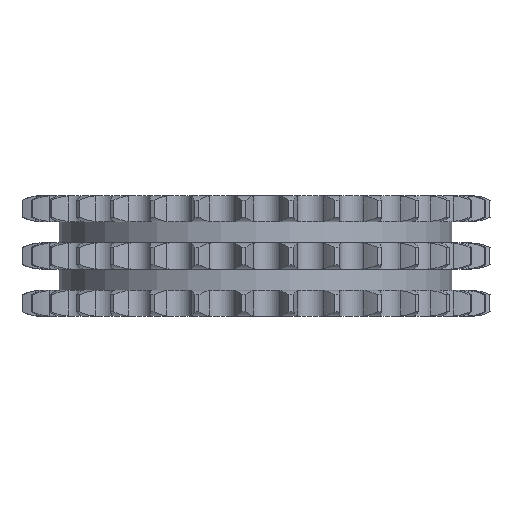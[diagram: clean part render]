
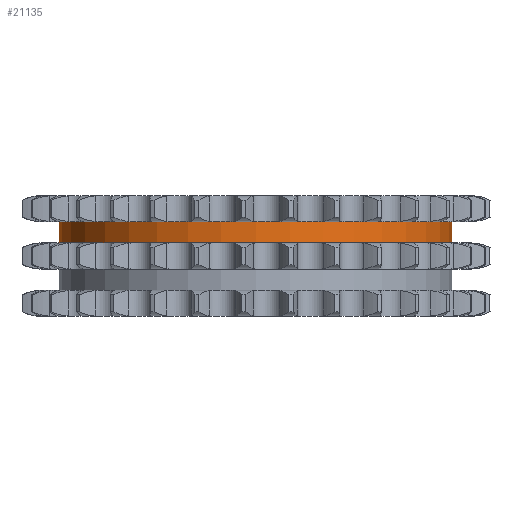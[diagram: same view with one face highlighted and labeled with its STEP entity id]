
A CAD part, left-side view. The second image highlights one B-rep face of the part: STEP entity #21135.
In plain terms, the highlighted cylindrical face has radius 68.458 mm (diameter 136.917 mm), a partial arc.
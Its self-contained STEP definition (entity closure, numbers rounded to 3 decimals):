
#4185=DIRECTION('',(0.,0.,-1.));
#4186=VECTOR('',#4185,7.4);
#4187=CARTESIAN_POINT('',(0.,68.458,11.95));
#4188=LINE('',#4187,#4186);
#4192=CARTESIAN_POINT('',(0.,0.,11.95));
#4193=DIRECTION('',(0.,0.,1.));
#4194=DIRECTION('',(0.,1.,0.));
#4195=AXIS2_PLACEMENT_3D('',#4192,#4193,#4194);
#4200=DIRECTION('',(0.,0.,-1.));
#4201=VECTOR('',#4200,7.4);
#4202=CARTESIAN_POINT('',(0.,-68.458,11.95));
#4203=LINE('',#4202,#4201);
#4207=CARTESIAN_POINT('',(0.,0.,4.55));
#4208=DIRECTION('',(0.,0.,1.));
#4209=DIRECTION('',(0.,1.,0.));
#4210=AXIS2_PLACEMENT_3D('',#4207,#4208,#4209);
#16696=CARTESIAN_POINT('',(0.,68.458,11.95));
#16697=CARTESIAN_POINT('',(0.,68.458,4.55));
#16698=VERTEX_POINT('',#16696);
#16699=VERTEX_POINT('',#16697);
#16700=CARTESIAN_POINT('',(0.,-68.458,11.95));
#16701=CARTESIAN_POINT('',(0.,-68.458,4.55));
#16702=VERTEX_POINT('',#16700);
#16703=VERTEX_POINT('',#16701);
#21123=CARTESIAN_POINT('',(0.,0.,13.145));
#21124=DIRECTION('',(0.,0.,-1.));
#21125=DIRECTION('',(0.,-1.,0.));
#21126=AXIS2_PLACEMENT_3D('',#21123,#21124,#21125);
#21127=CYLINDRICAL_SURFACE('',#21126,68.458);
#21128=ORIENTED_EDGE('',*,*,#21113,.F.);
#21129=ORIENTED_EDGE('',*,*,#21103,.T.);
#21130=ORIENTED_EDGE('',*,*,#21117,.T.);
#21132=ORIENTED_EDGE('',*,*,#21131,.F.);
#21133=EDGE_LOOP('',(#21128,#21129,#21130,#21132));
#21134=FACE_OUTER_BOUND('',#21133,.F.);
#21135=ADVANCED_FACE('',(#21134),#21127,.T.);
#4196=CIRCLE('',#4195,68.458);
#4211=CIRCLE('',#4210,68.458);
#21103=EDGE_CURVE('',#16698,#16702,#4196,.T.);
#21113=EDGE_CURVE('',#16698,#16699,#4188,.T.);
#21117=EDGE_CURVE('',#16702,#16703,#4203,.T.);
#21131=EDGE_CURVE('',#16699,#16703,#4211,.T.);
